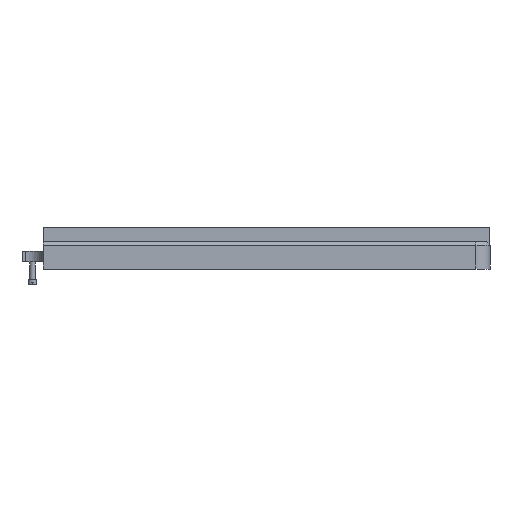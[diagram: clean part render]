
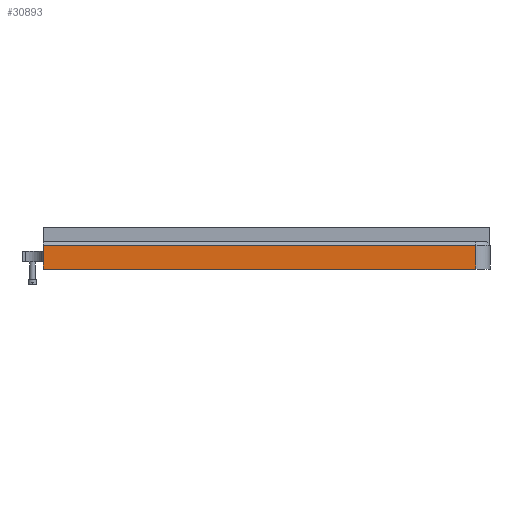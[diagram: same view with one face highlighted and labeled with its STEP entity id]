
A CAD part, left-side view. The second image highlights one B-rep face of the part: STEP entity #30893.
In plain terms, the highlighted planar face has unit normal (-1, 0, 0).
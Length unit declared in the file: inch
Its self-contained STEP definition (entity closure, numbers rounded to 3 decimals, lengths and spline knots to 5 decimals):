
#211=CARTESIAN_POINT('',(-17.63019,0.854,0.17914));
#212=VERTEX_POINT('',#211);
#244=CARTESIAN_POINT('',(-17.63019,0.854,-15.25836));
#245=VERTEX_POINT('',#244);
#252=CARTESIAN_POINT('',(-17.63019,0.854,-15.25836));
#253=DIRECTION('',(0.0,0.0,1.0));
#254=VECTOR('',#253,15.4375);
#255=LINE('',#252,#254);
#256=EDGE_CURVE('',#245,#212,#255,.T.);
#7106=CARTESIAN_POINT('',(-17.63019,0.0,0.17914));
#7107=VERTEX_POINT('',#7106);
#7108=CARTESIAN_POINT('',(-17.63019,0.854,0.17914));
#7109=DIRECTION('',(0.0,-1.0,0.0));
#7110=VECTOR('',#7109,0.854);
#7111=LINE('',#7108,#7110);
#7112=EDGE_CURVE('',#212,#7107,#7111,.T.);
#30870=CARTESIAN_POINT('',(-17.63019,0.0,0.67914));
#30871=DIRECTION('',(-1.0,0.0,0.0));
#30872=DIRECTION('',(0.0,0.0,1.0));
#30873=AXIS2_PLACEMENT_3D('',#30870,#30871,#30872);
#30874=PLANE('',#30873);
#30875=ORIENTED_EDGE('',*,*,#256,.F.);
#30876=CARTESIAN_POINT('',(-17.63019,0.0,-15.25836));
#30877=VERTEX_POINT('',#30876);
#30878=CARTESIAN_POINT('',(-17.63019,0.0,-15.25836));
#30879=DIRECTION('',(0.0,1.0,0.0));
#30880=VECTOR('',#30879,0.854);
#30881=LINE('',#30878,#30880);
#30882=EDGE_CURVE('',#30877,#245,#30881,.T.);
#30883=ORIENTED_EDGE('',*,*,#30882,.F.);
#30884=CARTESIAN_POINT('',(-17.63019,0.0,0.17914));
#30885=DIRECTION('',(0.0,0.0,-1.0));
#30886=VECTOR('',#30885,15.4375);
#30887=LINE('',#30884,#30886);
#30888=EDGE_CURVE('',#7107,#30877,#30887,.T.);
#30889=ORIENTED_EDGE('',*,*,#30888,.F.);
#30890=ORIENTED_EDGE('',*,*,#7112,.F.);
#30891=EDGE_LOOP('',(#30875,#30883,#30889,#30890));
#30892=FACE_OUTER_BOUND('',#30891,.T.);
#30893=ADVANCED_FACE('',(#30892),#30874,.T.);
